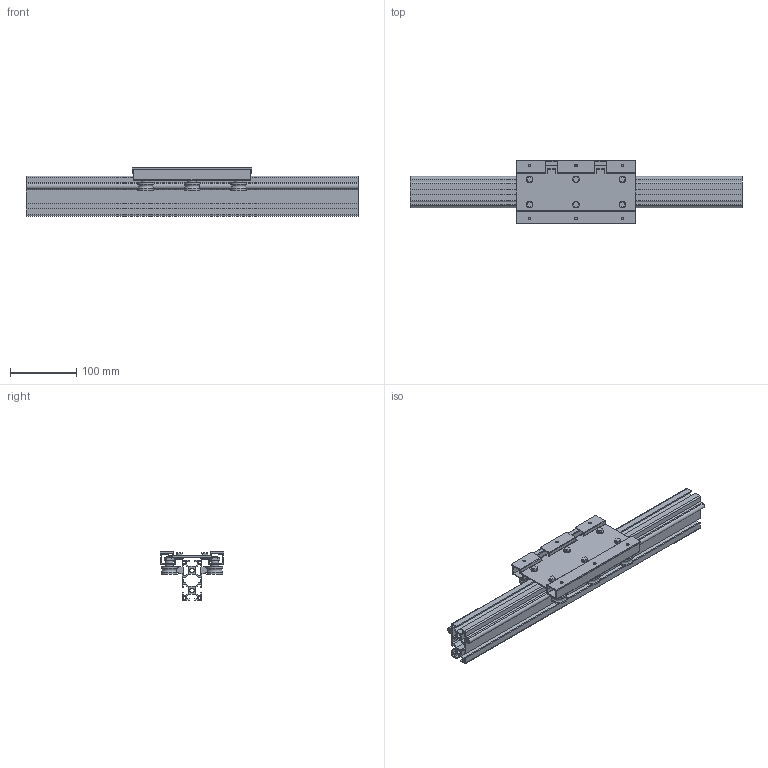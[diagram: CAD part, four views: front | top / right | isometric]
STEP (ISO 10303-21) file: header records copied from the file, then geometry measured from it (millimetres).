
FILE_DESCRIPTION((''),'2;1');
FILE_NAME('C:\Documents and Settings\土屋\My Documents\土屋移動用フォルダ\製品 (図面)\LSダウンロード用図面\新型キャリッジ\縦型LS-L\step形式\LS3060BL.stp','2017-08-02T09:35:18',('y'),(''),'Autodesk Inventor 11','Autodesk Inventor 11','');
FILE_SCHEMA(('AUTOMOTIVE_DESIGN { 1 0 10303 214 1 1 1 1 }'));
Length unit declared in the file: millimetre
Products named in the file (3): LS3060BL; LS3060BLレール; LS3060BLキャリッジ
Assembly tree (2 placements, depth 2):
  LS3060BL
    LS3060BLレール
    LS3060BLキャリッジ
Bounding box: 500 x 96 x 73 mm (x, y, z)
Volume: 518840.2 mm3; surface area: 379524.5 mm2
Topology: 8 solids, 8 shells, 488 faces, 1219 edges, 779 vertices
Faces by surface type: plane 281, cylinder 99, cone 90, bspline 18
Full cylindrical faces by diameter (mm): 4.2 x4, 6.8 x2, 8 x12, 10 x6, 12 x6, 12.3 x6, 24 x12
Entity records: 14468 total; most frequent: CARTESIAN_POINT 3343, DIRECTION 2240, ORIENTED_EDGE 2234, EDGE_CURVE 1117, AXIS2_PLACEMENT_3D 792, VERTEX_POINT 761, VECTOR 656, LINE 656
